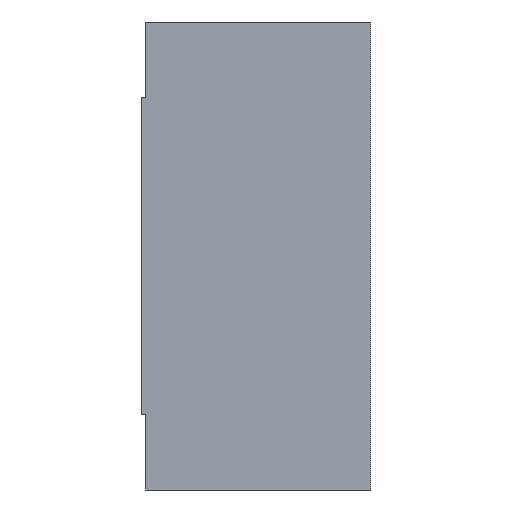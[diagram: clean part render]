
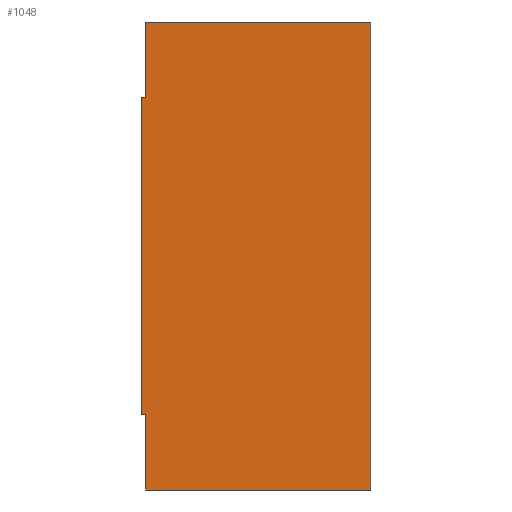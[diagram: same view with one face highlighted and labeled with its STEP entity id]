
A CAD part, left-side view. The second image highlights one B-rep face of the part: STEP entity #1048.
In plain terms, the highlighted planar face has unit normal (-1, 0, 0).
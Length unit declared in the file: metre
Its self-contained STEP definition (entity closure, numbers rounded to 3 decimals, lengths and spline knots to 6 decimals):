
#182=ORIENTED_EDGE('',*,*,#366,.T.);
#183=ORIENTED_EDGE('',*,*,#426,.F.);
#184=ORIENTED_EDGE('',*,*,#420,.T.);
#185=ORIENTED_EDGE('',*,*,#416,.T.);
#186=ORIENTED_EDGE('',*,*,#425,.F.);
#187=ORIENTED_EDGE('',*,*,#427,.T.);
#188=ORIENTED_EDGE('',*,*,#369,.F.);
#189=ORIENTED_EDGE('',*,*,#428,.F.);
#366=EDGE_CURVE('',#503,#505,#610,.T.);
#369=EDGE_CURVE('',#508,#509,#613,.T.);
#416=EDGE_CURVE('',#543,#544,#651,.T.);
#420=EDGE_CURVE('',#547,#543,#655,.T.);
#425=EDGE_CURVE('',#550,#544,#660,.T.);
#426=EDGE_CURVE('',#547,#505,#661,.T.);
#427=EDGE_CURVE('',#550,#509,#662,.T.);
#428=EDGE_CURVE('',#503,#508,#663,.T.);
#503=VERTEX_POINT('',#1531);
#505=VERTEX_POINT('',#1535);
#508=VERTEX_POINT('',#1542);
#509=VERTEX_POINT('',#1544);
#543=VERTEX_POINT('',#1643);
#544=VERTEX_POINT('',#1644);
#547=VERTEX_POINT('',#1652);
#550=VERTEX_POINT('',#1660);
#610=LINE('',#1536,#708);
#613=LINE('',#1543,#711);
#651=LINE('',#1642,#749);
#655=LINE('',#1651,#753);
#660=LINE('',#1661,#758);
#661=LINE('',#1663,#759);
#662=LINE('',#1664,#760);
#663=LINE('',#1665,#761);
#708=VECTOR('',#1220,1.);
#711=VECTOR('',#1225,1.);
#749=VECTOR('',#1317,1.);
#753=VECTOR('',#1323,1.);
#758=VECTOR('',#1330,1.);
#759=VECTOR('',#1333,1.);
#760=VECTOR('',#1334,1.);
#761=VECTOR('',#1335,1.);
#830=EDGE_LOOP('',(#182,#183,#184,#185,#186,#187,#188,#189));
#918=FACE_BOUND('',#830,.T.);
#1007=PLANE('',#1137);
#1048=ADVANCED_FACE('',(#918),#1007,.F.);
#1137=AXIS2_PLACEMENT_3D('',#1662,#1331,#1332);
#1220=DIRECTION('',(0.,-1.,0.));
#1225=DIRECTION('',(0.,-1.,0.));
#1317=DIRECTION('',(0.,0.,1.));
#1323=DIRECTION('',(0.,-1.,0.));
#1330=DIRECTION('',(0.,-1.,0.));
#1331=DIRECTION('',(1.,0.,0.));
#1332=DIRECTION('',(0.,0.,-1.));
#1333=DIRECTION('',(0.,0.,1.));
#1334=DIRECTION('',(0.,0.,-1.));
#1335=DIRECTION('',(0.,0.,1.));
#1531=CARTESIAN_POINT('',(0.,0.026,-0.0445));
#1535=CARTESIAN_POINT('',(0.,0.0255,-0.0445));
#1536=CARTESIAN_POINT('',(0.,0.026,-0.0445));
#1542=CARTESIAN_POINT('',(0.,0.026,-0.0085));
#1543=CARTESIAN_POINT('',(0.,0.026,-0.0085));
#1544=CARTESIAN_POINT('',(0.,0.0255,-0.0085));
#1642=CARTESIAN_POINT('',(0.,0.,0.));
#1643=CARTESIAN_POINT('',(0.,0.,-0.053));
#1644=CARTESIAN_POINT('',(0.,0.,0.));
#1651=CARTESIAN_POINT('',(0.,0.026,-0.053));
#1652=CARTESIAN_POINT('',(0.,0.0255,-0.053));
#1660=CARTESIAN_POINT('',(0.,0.0255,0.));
#1661=CARTESIAN_POINT('',(0.,0.026,0.));
#1662=CARTESIAN_POINT('',(0.,0.026,0.));
#1663=CARTESIAN_POINT('',(0.,0.0255,-0.053));
#1664=CARTESIAN_POINT('',(0.,0.0255,0.));
#1665=CARTESIAN_POINT('',(0.,0.026,0.));
